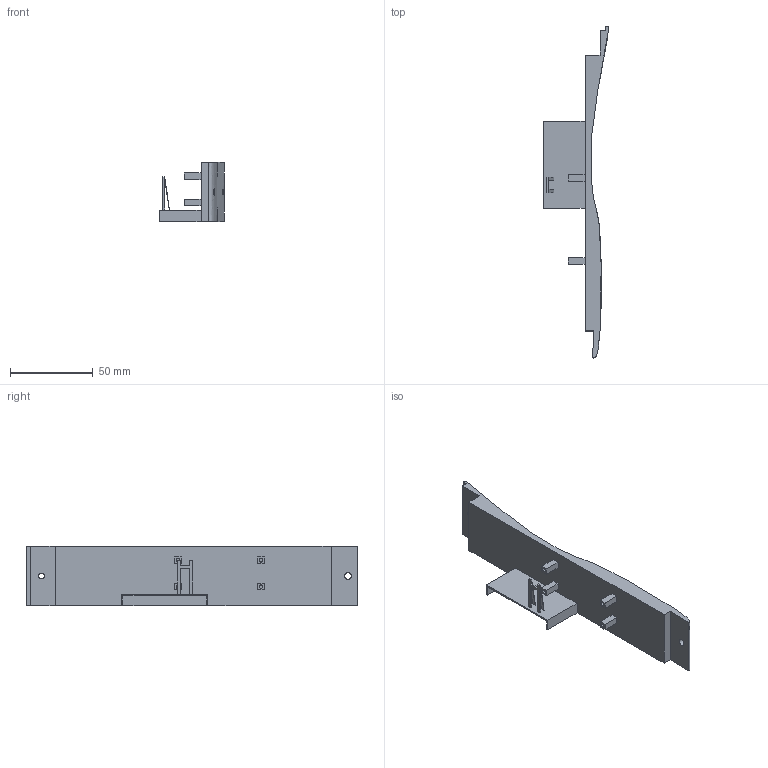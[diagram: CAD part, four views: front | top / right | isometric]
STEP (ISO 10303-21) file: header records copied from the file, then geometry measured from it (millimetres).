
FILE_DESCRIPTION(/* description */ ('STEP AP242 Edition 2','CAx-IF Rec.Pracs.---Representation and Presentation of Product Manufacturing Information (PMI)---4.0---2014-10-13','CAx-IF Rec.Pracs.---3D Tessellated Geometry---0.4---2014-09-14','2;1','CAx-IF Rec.Pracs.---User Defined Attributes---1.5---2016-08-15'),/* implementation_level */ '2;1');
FILE_NAME(/* name */ 'Controller - Bottom',/* time_stamp */ '2026-04-22T00:25:01Z',/* author */ (''),/* organization */ (''),/* preprocessor_version */ 'ST-DEVELOPER v20',/* originating_system */ 'ONSHAPE BY PTC INC, 1.213',/* authorisation */ ' ');
FILE_SCHEMA (('AP242_MANAGED_MODEL_BASED_3D_ENGINEERING_MIM_LF { 1 0 10303 442 3 1 4 }'));
Length unit declared in the file: metre
Products named in the file (1): Bottom
Bounding box: 39.08 x 200.6 x 35.8 mm (x, y, z)
Volume: 49776.6 mm3; surface area: 22486.6 mm2
Topology: 1 solids, 1 shells, 64 faces, 169 edges, 113 vertices
Faces by surface type: plane 57, cylinder 6, bspline 1
Full cylindrical faces by diameter (mm): 2.2 x4, 3.599 x1, 4.06 x1
Entity records: 1996 total; most frequent: CARTESIAN_POINT 392, ORIENTED_EDGE 324, DIRECTION 296, EDGE_CURVE 162, LINE 148, VECTOR 148, VERTEX_POINT 112, EDGE_LOOP 86
